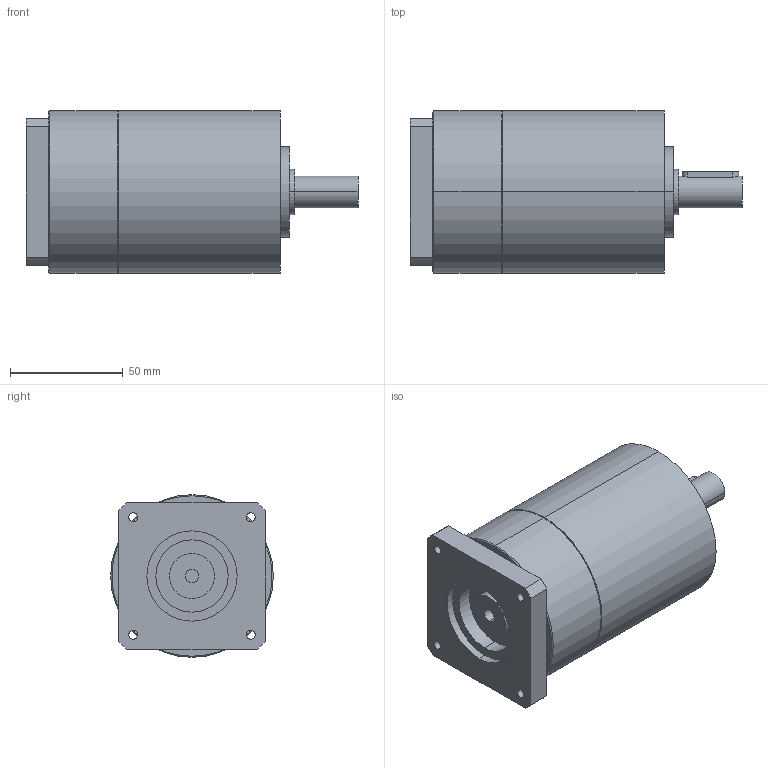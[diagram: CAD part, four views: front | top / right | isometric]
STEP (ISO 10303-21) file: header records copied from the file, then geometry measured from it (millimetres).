
FILE_DESCRIPTION(('CoCreate Modeling STEP Export'),'2;1');
FILE_NAME('GPT75_ig-9-12-16-20-25-28-35-40-50-70-100_14_B14T_6_P34.stp','2014-08-27T13:23:00',(''),(''),'CoCreate Modeling STEP processor for AP214 (Solid Model)','CoCreate Modeling 16.00C 25-Feb-2009 (C) Parametric Technology GmbH','');
FILE_SCHEMA(('AUTOMOTIVE_DESIGN { 1 0 10303 214 1 1 1 1 }'));
Length unit declared in the file: millimetre
Products named in the file (2): GPT75_ig-9-12-16-20-25-28-35-40-50-70-100_14_B14T_6_P34
Assembly tree (1 placements, depth 2):
  GPT75_ig-9-12-16-20-25-28-35-40-50-70-100_14_B14T_6_P34
    GPT75_ig-9-12-16-20-25-28-35-40-50-70-100_14_B14T_6_P34
Bounding box: 147 x 72 x 72 mm (x, y, z)
Volume: 458699.8 mm3; surface area: 40048.5 mm2
Topology: 1 solids, 1 shells, 80 faces, 198 edges, 129 vertices
Faces by surface type: cylinder 42, plane 34, cone 4
Entity records: 2353 total; most frequent: CARTESIAN_POINT 689, ORIENTED_EDGE 396, DIRECTION 276, EDGE_CURVE 198, VERTEX_POINT 129, AXIS2_PLACEMENT_3D 104, EDGE_LOOP 97, FACE_OUTER_BOUND 80
